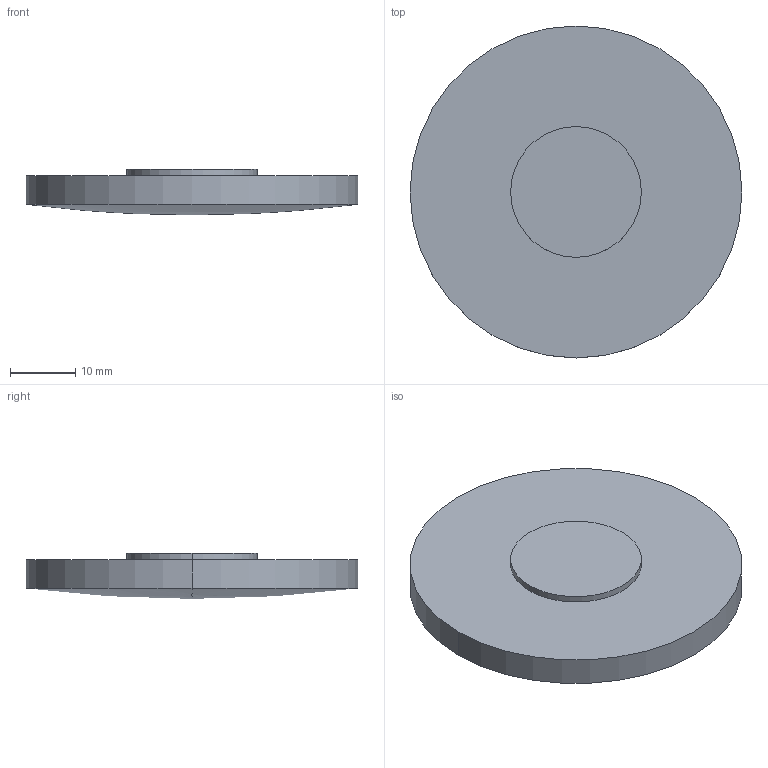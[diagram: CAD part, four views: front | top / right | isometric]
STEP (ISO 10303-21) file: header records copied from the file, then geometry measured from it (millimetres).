
FILE_DESCRIPTION(('STEP AP214'),'1');
FILE_NAME('LL-51-300.STEP','2020-03-09T17:41:16',(' '),(' '),'Spatial InterOp 3D',' ',' ');
FILE_SCHEMA(('AUTOMOTIVE_DESIGN { 1 0 10303 214 1 1 1 1 }'));
Length unit declared in the file: millimetre
Products named in the file (1): 1
Bounding box: 50.8 x 50.8 x 7 mm (x, y, z)
Volume: 10851.7 mm3; surface area: 5454.4 mm2
Topology: 2 solids, 2 shells, 9 faces, 16 edges, 9 vertices
Faces by surface type: cylinder 4, plane 3, sphere 2
Entity records: 229 total; most frequent: DIRECTION 46, CARTESIAN_POINT 34, ORIENTED_EDGE 28, AXIS2_PLACEMENT_3D 21, EDGE_CURVE 14, CIRCLE 10, ADVANCED_FACE 9, FACE_OUTER_BOUND 9
